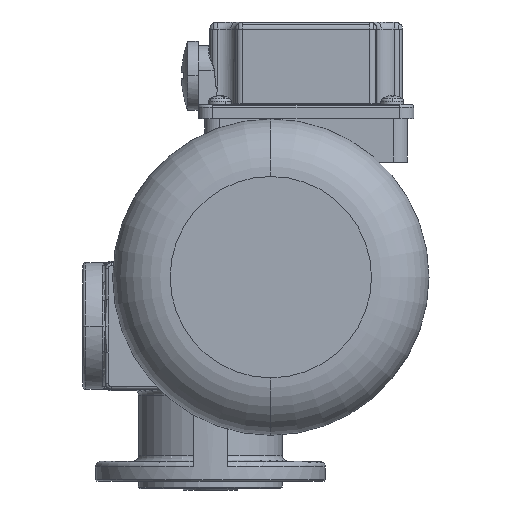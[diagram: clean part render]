
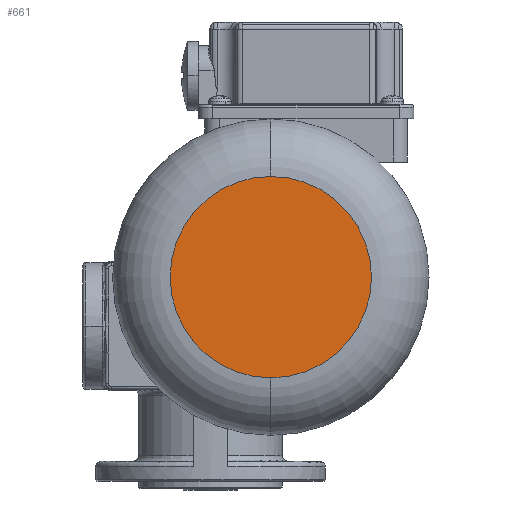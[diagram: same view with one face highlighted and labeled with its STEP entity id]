
A CAD part, left-side view. The second image highlights one B-rep face of the part: STEP entity #661.
In plain terms, the highlighted planar face has unit normal (-1, 0, 0).
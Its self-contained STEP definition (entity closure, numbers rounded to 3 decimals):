
#454 = CIRCLE ( 'NONE', #7759, 35. ) ;
#661 = ADVANCED_FACE ( 'NONE', ( #11403 ), #9294, .F. ) ;
#2296 = DIRECTION ( 'NONE',  ( 0., 0., -1. ) ) ;
#2671 = CARTESIAN_POINT ( 'NONE',  ( 0., 0., 0. ) ) ;
#2685 = EDGE_CURVE ( 'NONE', #21001, #17096, #10568, .T. ) ;
#2712 = DIRECTION ( 'NONE',  ( 1., 0., 0. ) ) ;
#7759 = AXIS2_PLACEMENT_3D ( 'NONE', #25191, #7782, #12336 ) ;
#7782 = DIRECTION ( 'NONE',  ( -1., 0., 0. ) ) ;
#9294 = PLANE ( 'NONE',  #13186 ) ;
#10568 = CIRCLE ( 'NONE', #24681, 35. ) ;
#11137 = CARTESIAN_POINT ( 'NONE',  ( 0., 0., 0. ) ) ;
#11403 = FACE_OUTER_BOUND ( 'NONE', #23736, .T. ) ;
#12336 = DIRECTION ( 'NONE',  ( 0., 0., -1. ) ) ;
#12447 = CARTESIAN_POINT ( 'NONE',  ( 0., 0., 35. ) ) ;
#12725 = ORIENTED_EDGE ( 'NONE', *, *, #2685, .T. ) ;
#13186 = AXIS2_PLACEMENT_3D ( 'NONE', #11137, #2712, #2296 ) ;
#17096 = VERTEX_POINT ( 'NONE', #12447 ) ;
#17829 = EDGE_CURVE ( 'NONE', #17096, #21001, #454, .T. ) ;
#20363 = DIRECTION ( 'NONE',  ( 0., 0., -1. ) ) ;
#20498 = DIRECTION ( 'NONE',  ( -1., 0., 0. ) ) ;
#20925 = ORIENTED_EDGE ( 'NONE', *, *, #17829, .T. ) ;
#21001 = VERTEX_POINT ( 'NONE', #26939 ) ;
#23736 = EDGE_LOOP ( 'NONE', ( #12725, #20925 ) ) ;
#24681 = AXIS2_PLACEMENT_3D ( 'NONE', #2671, #20498, #20363 ) ;
#25191 = CARTESIAN_POINT ( 'NONE',  ( 0., 0., 0. ) ) ;
#26939 = CARTESIAN_POINT ( 'NONE',  ( 0., 0., -35. ) ) ;
